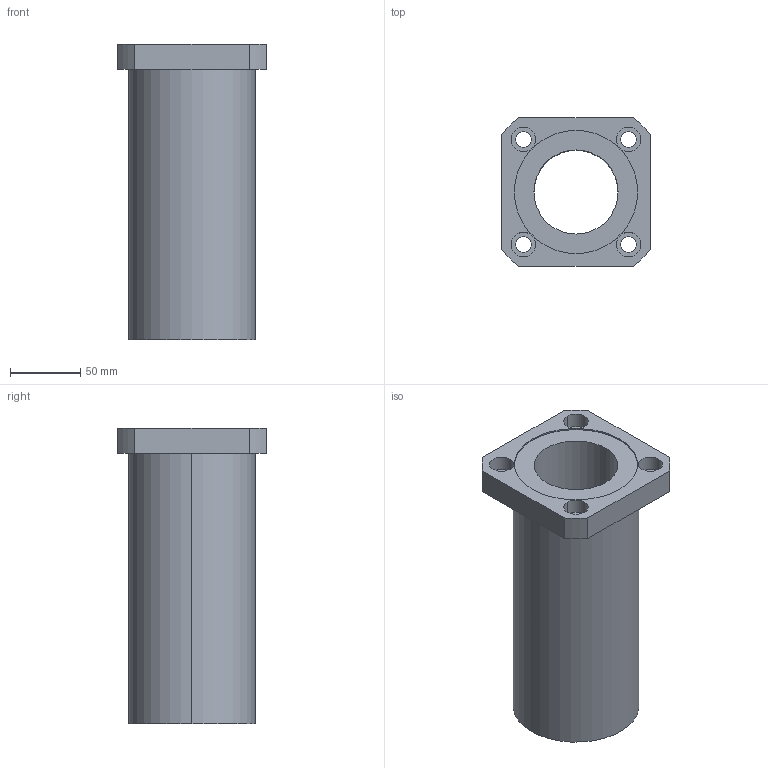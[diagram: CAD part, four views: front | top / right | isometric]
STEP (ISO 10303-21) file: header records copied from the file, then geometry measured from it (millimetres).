
FILE_DESCRIPTION((''),'2;1');
FILE_NAME('C:\Documents and Settings\ｿﾀﾀ蠑ｷ1\ｹﾙﾅﾁ ﾈｭｸ饅\ｺﾎﾇｰﾆﾄﾀﾏ\ﾁｦﾇｰ\LMEK__LUU\LMEK60LUU.stp','2005-06-15T11:03:05',('ｿﾀﾀ蠑ｷ1'),(''),'Autodesk Inventor 9','Autodesk Inventor 9','');
FILE_SCHEMA(('AUTOMOTIVE_DESIGN { 1 0 10303 214 1 1 1 1 }'));
Length unit declared in the file: millimetre
Products named in the file (1): LMEK__(L)
Bounding box: 106 x 106 x 211 mm (x, y, z)
Volume: 809083.3 mm3; surface area: 120545.1 mm2
Topology: 1 solids, 1 shells, 41 faces, 96 edges, 64 vertices
Faces by surface type: bspline 20, cylinder 12, plane 9
Entity records: 1457 total; most frequent: CARTESIAN_POINT 486, DIRECTION 196, ORIENTED_EDGE 192, EDGE_CURVE 96, AXIS2_PLACEMENT_3D 78, VERTEX_POINT 64, EDGE_LOOP 58, CIRCLE 56
